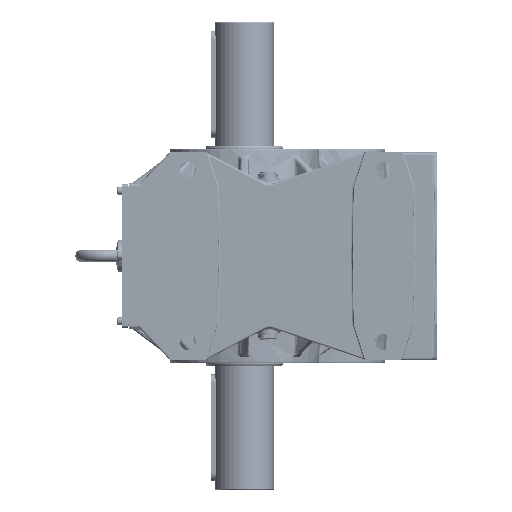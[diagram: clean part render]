
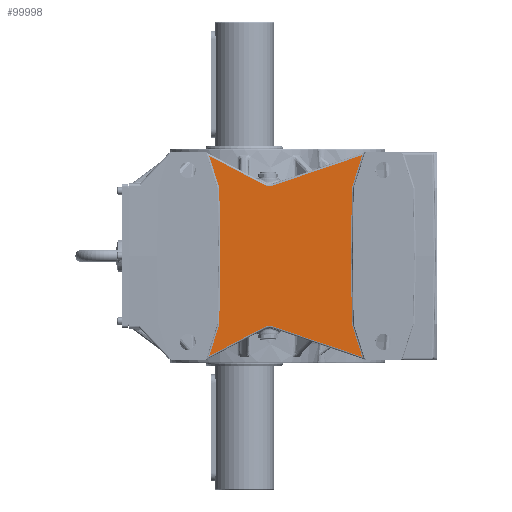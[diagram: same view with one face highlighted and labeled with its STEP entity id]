
A CAD part, left-side view. The second image highlights one B-rep face of the part: STEP entity #99998.
In plain terms, the highlighted planar face has unit normal (-1, 0, 0).
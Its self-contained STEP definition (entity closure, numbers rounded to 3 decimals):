
#71610=CARTESIAN_POINT('',(-225.0,39.992,0.));
#71611=VERTEX_POINT('',#71610);
#71612=CARTESIAN_POINT('',(-225.0,42.008,115.489));
#71613=VERTEX_POINT('',#71612);
#71614=CARTESIAN_POINT('',(-225.0,39.992,0.));
#71615=DIRECTION('',(0.0,0.017,1.));
#71616=VECTOR('',#71615,115.507);
#71617=LINE('',#71614,#71616);
#71618=EDGE_CURVE('',#71611,#71613,#71617,.T.);
#72059=CARTESIAN_POINT('',(-225.,-182.008,115.489));
#72060=VERTEX_POINT('',#72059);
#72068=CARTESIAN_POINT('',(-225.,-179.992,0.));
#72069=VERTEX_POINT('',#72068);
#72070=CARTESIAN_POINT('',(-225.,-182.008,115.489));
#72071=DIRECTION('',(0.0,0.017,-1.));
#72072=VECTOR('',#72071,115.507);
#72073=LINE('',#72070,#72072);
#72074=EDGE_CURVE('',#72060,#72069,#72073,.T.);
#99488=CARTESIAN_POINT('',(-225.,-199.348,170.247));
#99489=VERTEX_POINT('',#99488);
#99497=CARTESIAN_POINT('',(-225.,-199.348,170.247));
#99498=DIRECTION('',(0.0,0.302,-0.953));
#99499=VECTOR('',#99498,57.438);
#99500=LINE('',#99497,#99499);
#99501=EDGE_CURVE('',#99489,#72060,#99500,.T.);
#99632=CARTESIAN_POINT('',(-225.0,58.933,168.937));
#99633=VERTEX_POINT('',#99632);
#99666=CARTESIAN_POINT('',(-225.,-32.131,120.924));
#99667=VERTEX_POINT('',#99666);
#99668=CARTESIAN_POINT('',(-225.,58.933,168.937));
#99669=DIRECTION('',(0.,-0.885,-0.466));
#99670=VECTOR('',#99669,102.946);
#99671=LINE('',#99668,#99670);
#99672=EDGE_CURVE('',#99633,#99667,#99671,.T.);
#99740=CARTESIAN_POINT('',(-225.,-50.27,119.497));
#99741=VERTEX_POINT('',#99740);
#99742=CARTESIAN_POINT('',(-225.,-42.858,141.27));
#99743=DIRECTION('',(-1.0,0.,0.));
#99744=DIRECTION('',(0.,0.078,-0.997));
#99745=AXIS2_PLACEMENT_3D('',#99742,#99743,#99744);
#99746=CIRCLE('',#99745,23.);
#99747=EDGE_CURVE('',#99667,#99741,#99746,.T.);
#99774=CARTESIAN_POINT('',(-225.,-50.27,119.497));
#99775=DIRECTION('',(0.,-0.947,0.322));
#99776=VECTOR('',#99775,157.48);
#99777=LINE('',#99774,#99776);
#99778=EDGE_CURVE('',#99741,#99489,#99777,.T.);
#99888=CARTESIAN_POINT('',(-225.0,42.008,-115.489));
#99889=VERTEX_POINT('',#99888);
#99897=CARTESIAN_POINT('',(-225.0,42.008,-115.489));
#99898=DIRECTION('',(0.0,-0.017,1.));
#99899=VECTOR('',#99898,115.507);
#99900=LINE('',#99897,#99899);
#99901=EDGE_CURVE('',#99889,#71611,#99900,.T.);
#99920=CARTESIAN_POINT('',(-225.,-182.008,-115.489));
#99921=VERTEX_POINT('',#99920);
#99922=CARTESIAN_POINT('',(-225.,-179.992,0.));
#99923=DIRECTION('',(0.0,-0.017,-1.));
#99924=VECTOR('',#99923,115.507);
#99925=LINE('',#99922,#99924);
#99926=EDGE_CURVE('',#72069,#99921,#99925,.T.);
#99938=CARTESIAN_POINT('',(-225.,-320.,0.0));
#99939=DIRECTION('',(-1.0,0.0,0.0));
#99940=DIRECTION('',(0.0,0.0,1.0));
#99941=AXIS2_PLACEMENT_3D('',#99938,#99939,#99940);
#99942=PLANE('',#99941);
#99943=CARTESIAN_POINT('',(-225.,-199.348,-170.247));
#99944=VERTEX_POINT('',#99943);
#99945=CARTESIAN_POINT('',(-225.,-50.27,-119.497));
#99946=VERTEX_POINT('',#99945);
#99947=CARTESIAN_POINT('',(-225.,-199.348,-170.247));
#99948=DIRECTION('',(0.,0.947,0.322));
#99949=VECTOR('',#99948,157.48);
#99950=LINE('',#99947,#99949);
#99951=EDGE_CURVE('',#99944,#99946,#99950,.T.);
#99952=ORIENTED_EDGE('',*,*,#99951,.F.);
#99953=CARTESIAN_POINT('',(-225.,-182.008,-115.489));
#99954=DIRECTION('',(0.0,-0.302,-0.953));
#99955=VECTOR('',#99954,57.438);
#99956=LINE('',#99953,#99955);
#99957=EDGE_CURVE('',#99921,#99944,#99956,.T.);
#99958=ORIENTED_EDGE('',*,*,#99957,.F.);
#99959=ORIENTED_EDGE('',*,*,#99926,.F.);
#99960=ORIENTED_EDGE('',*,*,#72074,.F.);
#99961=ORIENTED_EDGE('',*,*,#99501,.F.);
#99962=ORIENTED_EDGE('',*,*,#99778,.F.);
#99963=ORIENTED_EDGE('',*,*,#99747,.F.);
#99964=ORIENTED_EDGE('',*,*,#99672,.F.);
#99965=CARTESIAN_POINT('',(-225.0,42.008,115.489));
#99966=DIRECTION('',(0.,0.302,0.953));
#99967=VECTOR('',#99966,56.064);
#99968=LINE('',#99965,#99967);
#99969=EDGE_CURVE('',#71613,#99633,#99968,.T.);
#99970=ORIENTED_EDGE('',*,*,#99969,.F.);
#99971=ORIENTED_EDGE('',*,*,#71618,.F.);
#99972=ORIENTED_EDGE('',*,*,#99901,.F.);
#99973=CARTESIAN_POINT('',(-225.0,58.933,-168.937));
#99974=VERTEX_POINT('',#99973);
#99975=CARTESIAN_POINT('',(-225.,58.933,-168.937));
#99976=DIRECTION('',(0.,-0.302,0.953));
#99977=VECTOR('',#99976,56.064);
#99978=LINE('',#99975,#99977);
#99979=EDGE_CURVE('',#99974,#99889,#99978,.T.);
#99980=ORIENTED_EDGE('',*,*,#99979,.F.);
#99981=CARTESIAN_POINT('',(-225.,-32.131,-120.924));
#99982=VERTEX_POINT('',#99981);
#99983=CARTESIAN_POINT('',(-225.,-32.131,-120.924));
#99984=DIRECTION('',(0.,0.885,-0.466));
#99985=VECTOR('',#99984,102.946);
#99986=LINE('',#99983,#99985);
#99987=EDGE_CURVE('',#99982,#99974,#99986,.T.);
#99988=ORIENTED_EDGE('',*,*,#99987,.F.);
#99989=CARTESIAN_POINT('',(-225.,-42.858,-141.27));
#99990=DIRECTION('',(-1.0,0.,0.));
#99991=DIRECTION('',(0.,0.078,0.997));
#99992=AXIS2_PLACEMENT_3D('',#99989,#99990,#99991);
#99993=CIRCLE('',#99992,23.);
#99994=EDGE_CURVE('',#99946,#99982,#99993,.T.);
#99995=ORIENTED_EDGE('',*,*,#99994,.F.);
#99996=EDGE_LOOP('',(#99952,#99958,#99959,#99960,#99961,#99962,#99963,#99964,#99970,#99971,#99972,#99980,#99988,#99995));
#99997=FACE_OUTER_BOUND('',#99996,.T.);
#99998=ADVANCED_FACE('',(#99997),#99942,.T.);
